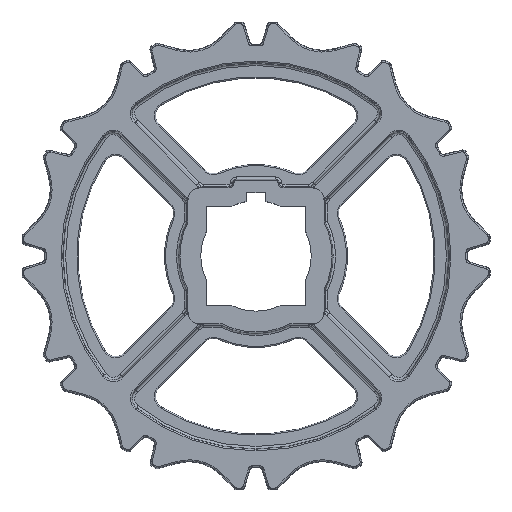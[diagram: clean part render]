
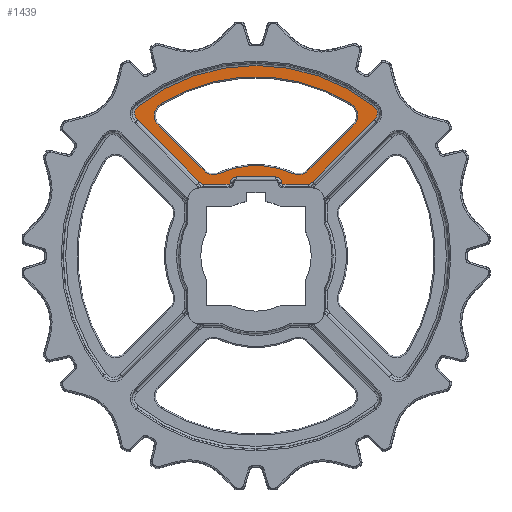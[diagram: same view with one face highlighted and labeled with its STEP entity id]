
A CAD part, top view. The second image highlights one B-rep face of the part: STEP entity #1439.
In plain terms, the highlighted planar face has unit normal (0, 0, 1).
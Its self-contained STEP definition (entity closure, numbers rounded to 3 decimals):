
#430=FACE_BOUND('',#3888,.T.);
#431=FACE_BOUND('',#3889,.T.);
#1047=PLANE('',#17221);
#1439=ADVANCED_FACE('',(#430,#431),#1047,.T.);
#3888=EDGE_LOOP('',(#8248,#8249,#8250,#8251,#8252,#8253,#8254,#8255));
#3889=EDGE_LOOP('',(#8256,#8257,#8258,#8259,#8260,#8261,#8262,#8263,#8264,
#8265,#8266,#8267,#8268,#8269,#8270,#8271));
#5300=LINE('',#26911,#6370);
#5301=LINE('',#26919,#6371);
#5302=LINE('',#26925,#6372);
#5303=LINE('',#26933,#6373);
#5304=LINE('',#26937,#6374);
#5305=LINE('',#26941,#6375);
#5306=LINE('',#26945,#6376);
#5307=LINE('',#26949,#6377);
#5308=LINE('',#26953,#6378);
#6370=VECTOR('',#20816,1.);
#6371=VECTOR('',#20823,1.);
#6372=VECTOR('',#20828,1.);
#6373=VECTOR('',#20835,1.);
#6374=VECTOR('',#20838,1.);
#6375=VECTOR('',#20841,1.);
#6376=VECTOR('',#20844,1.);
#6377=VECTOR('',#20847,1.);
#6378=VECTOR('',#20850,1.);
#8248=ORIENTED_EDGE('',*,*,#14172,.T.);
#8249=ORIENTED_EDGE('',*,*,#14173,.T.);
#8250=ORIENTED_EDGE('',*,*,#14174,.T.);
#8251=ORIENTED_EDGE('',*,*,#14175,.T.);
#8252=ORIENTED_EDGE('',*,*,#14176,.T.);
#8253=ORIENTED_EDGE('',*,*,#14177,.T.);
#8254=ORIENTED_EDGE('',*,*,#14178,.T.);
#8255=ORIENTED_EDGE('',*,*,#14179,.T.);
#8256=ORIENTED_EDGE('',*,*,#14180,.T.);
#8257=ORIENTED_EDGE('',*,*,#14181,.T.);
#8258=ORIENTED_EDGE('',*,*,#14182,.T.);
#8259=ORIENTED_EDGE('',*,*,#14183,.T.);
#8260=ORIENTED_EDGE('',*,*,#14184,.T.);
#8261=ORIENTED_EDGE('',*,*,#14185,.T.);
#8262=ORIENTED_EDGE('',*,*,#14186,.T.);
#8263=ORIENTED_EDGE('',*,*,#14187,.T.);
#8264=ORIENTED_EDGE('',*,*,#14188,.T.);
#8265=ORIENTED_EDGE('',*,*,#14189,.T.);
#8266=ORIENTED_EDGE('',*,*,#14190,.T.);
#8267=ORIENTED_EDGE('',*,*,#14191,.T.);
#8268=ORIENTED_EDGE('',*,*,#14192,.T.);
#8269=ORIENTED_EDGE('',*,*,#14193,.T.);
#8270=ORIENTED_EDGE('',*,*,#14194,.T.);
#8271=ORIENTED_EDGE('',*,*,#14195,.T.);
#12500=VERTEX_POINT('',#26907);
#12501=VERTEX_POINT('',#26908);
#12502=VERTEX_POINT('',#26910);
#12503=VERTEX_POINT('',#26912);
#12504=VERTEX_POINT('',#26914);
#12505=VERTEX_POINT('',#26916);
#12506=VERTEX_POINT('',#26918);
#12507=VERTEX_POINT('',#26920);
#12508=VERTEX_POINT('',#26923);
#12509=VERTEX_POINT('',#26924);
#12510=VERTEX_POINT('',#26926);
#12511=VERTEX_POINT('',#26928);
#12512=VERTEX_POINT('',#26930);
#12513=VERTEX_POINT('',#26932);
#12514=VERTEX_POINT('',#26934);
#12515=VERTEX_POINT('',#26936);
#12516=VERTEX_POINT('',#26938);
#12517=VERTEX_POINT('',#26940);
#12518=VERTEX_POINT('',#26942);
#12519=VERTEX_POINT('',#26944);
#12520=VERTEX_POINT('',#26946);
#12521=VERTEX_POINT('',#26948);
#12522=VERTEX_POINT('',#26950);
#12523=VERTEX_POINT('',#26952);
#14172=EDGE_CURVE('',#12500,#12501,#15736,.T.);
#14173=EDGE_CURVE('',#12501,#12502,#15737,.T.);
#14174=EDGE_CURVE('',#12502,#12503,#5300,.T.);
#14175=EDGE_CURVE('',#12503,#12504,#15738,.T.);
#14176=EDGE_CURVE('',#12504,#12505,#15739,.T.);
#14177=EDGE_CURVE('',#12505,#12506,#15740,.T.);
#14178=EDGE_CURVE('',#12506,#12507,#5301,.T.);
#14179=EDGE_CURVE('',#12507,#12500,#15741,.T.);
#14180=EDGE_CURVE('',#12508,#12509,#15742,.T.);
#14181=EDGE_CURVE('',#12509,#12510,#5302,.T.);
#14182=EDGE_CURVE('',#12510,#12511,#15743,.T.);
#14183=EDGE_CURVE('',#12511,#12512,#15744,.T.);
#14184=EDGE_CURVE('',#12512,#12513,#15745,.T.);
#14185=EDGE_CURVE('',#12513,#12514,#5303,.T.);
#14186=EDGE_CURVE('',#12514,#12515,#15746,.T.);
#14187=EDGE_CURVE('',#12515,#12516,#5304,.T.);
#14188=EDGE_CURVE('',#12516,#12517,#15747,.T.);
#14189=EDGE_CURVE('',#12517,#12518,#5305,.T.);
#14190=EDGE_CURVE('',#12518,#12519,#15748,.T.);
#14191=EDGE_CURVE('',#12519,#12520,#5306,.T.);
#14192=EDGE_CURVE('',#12520,#12521,#15749,.T.);
#14193=EDGE_CURVE('',#12521,#12522,#5307,.T.);
#14194=EDGE_CURVE('',#12522,#12523,#15750,.T.);
#14195=EDGE_CURVE('',#12523,#12508,#5308,.T.);
#15736=CIRCLE('',#17206,36.85);
#15737=CIRCLE('',#17207,5.5);
#15738=CIRCLE('',#17208,5.5);
#15739=CIRCLE('',#17209,73.15);
#15740=CIRCLE('',#17210,5.5);
#15741=CIRCLE('',#17211,5.5);
#15742=CIRCLE('',#17212,3.685);
#15743=CIRCLE('',#17213,3.685);
#15744=CIRCLE('',#17214,77.685);
#15745=CIRCLE('',#17215,3.685);
#15746=CIRCLE('',#17216,3.685);
#15747=CIRCLE('',#17217,0.563);
#15748=CIRCLE('',#17218,2.437);
#15749=CIRCLE('',#17219,2.437);
#15750=CIRCLE('',#17220,0.563);
#17206=AXIS2_PLACEMENT_3D('',#26906,#20812,#20813);
#17207=AXIS2_PLACEMENT_3D('',#26909,#20814,#20815);
#17208=AXIS2_PLACEMENT_3D('',#26913,#20817,#20818);
#17209=AXIS2_PLACEMENT_3D('',#26915,#20819,#20820);
#17210=AXIS2_PLACEMENT_3D('',#26917,#20821,#20822);
#17211=AXIS2_PLACEMENT_3D('',#26921,#20824,#20825);
#17212=AXIS2_PLACEMENT_3D('',#26922,#20826,#20827);
#17213=AXIS2_PLACEMENT_3D('',#26927,#20829,#20830);
#17214=AXIS2_PLACEMENT_3D('',#26929,#20831,#20832);
#17215=AXIS2_PLACEMENT_3D('',#26931,#20833,#20834);
#17216=AXIS2_PLACEMENT_3D('',#26935,#20836,#20837);
#17217=AXIS2_PLACEMENT_3D('',#26939,#20839,#20840);
#17218=AXIS2_PLACEMENT_3D('',#26943,#20842,#20843);
#17219=AXIS2_PLACEMENT_3D('',#26947,#20845,#20846);
#17220=AXIS2_PLACEMENT_3D('',#26951,#20848,#20849);
#17221=AXIS2_PLACEMENT_3D('',#26954,#20851,#20852);
#20812=DIRECTION('',(0.,0.,1.));
#20813=DIRECTION('',(1.,0.,0.));
#20814=DIRECTION('',(0.,0.,-1.));
#20815=DIRECTION('',(1.,0.,0.));
#20816=DIRECTION('',(-0.707,0.707,0.));
#20817=DIRECTION('',(0.,0.,-1.));
#20818=DIRECTION('',(1.,0.,0.));
#20819=DIRECTION('',(0.,0.,-1.));
#20820=DIRECTION('',(1.,0.,0.));
#20821=DIRECTION('',(0.,0.,-1.));
#20822=DIRECTION('',(1.,0.,0.));
#20823=DIRECTION('',(-0.707,-0.707,0.));
#20824=DIRECTION('',(0.,0.,-1.));
#20825=DIRECTION('',(1.,0.,0.));
#20826=DIRECTION('',(0.,0.,1.));
#20827=DIRECTION('',(1.,0.,0.));
#20828=DIRECTION('',(0.707,0.707,0.));
#20829=DIRECTION('',(0.,0.,1.));
#20830=DIRECTION('',(1.,0.,0.));
#20831=DIRECTION('',(0.,0.,1.));
#20832=DIRECTION('',(1.,0.,0.));
#20833=DIRECTION('',(0.,0.,1.));
#20834=DIRECTION('',(1.,0.,0.));
#20835=DIRECTION('',(0.707,-0.707,0.));
#20836=DIRECTION('',(0.,0.,1.));
#20837=DIRECTION('',(1.,0.,0.));
#20838=DIRECTION('',(1.,0.,0.));
#20839=DIRECTION('',(0.,0.,1.));
#20840=DIRECTION('',(1.,0.,0.));
#20841=DIRECTION('',(0.,1.,0.));
#20842=DIRECTION('',(0.,0.,-1.));
#20843=DIRECTION('',(1.,0.,0.));
#20844=DIRECTION('',(1.,0.,0.));
#20845=DIRECTION('',(0.,0.,-1.));
#20846=DIRECTION('',(1.,0.,0.));
#20847=DIRECTION('',(0.,-1.,0.));
#20848=DIRECTION('',(0.,0.,1.));
#20849=DIRECTION('',(1.,0.,0.));
#20850=DIRECTION('',(1.,0.,0.));
#20851=DIRECTION('',(0.,0.,1.));
#20852=DIRECTION('',(0.,1.,0.));
#26906=CARTESIAN_POINT('',(3914.869,1257.482,5.));
#26907=CARTESIAN_POINT('',(3929.923,1291.117,5.));
#26908=CARTESIAN_POINT('',(3899.815,1291.117,5.));
#26909=CARTESIAN_POINT('',(3897.569,1296.137,5.));
#26910=CARTESIAN_POINT('',(3893.679,1292.248,5.));
#26911=CARTESIAN_POINT('',(3921.657,1264.27,5.));
#26912=CARTESIAN_POINT('',(3875.028,1310.899,5.));
#26913=CARTESIAN_POINT('',(3878.917,1314.788,5.));
#26914=CARTESIAN_POINT('',(3875.994,1319.447,5.));
#26915=CARTESIAN_POINT('',(3914.869,1257.482,5.));
#26916=CARTESIAN_POINT('',(3953.743,1319.447,5.));
#26917=CARTESIAN_POINT('',(3950.821,1314.788,5.));
#26918=CARTESIAN_POINT('',(3954.71,1310.899,5.));
#26919=CARTESIAN_POINT('',(3908.081,1264.27,5.));
#26920=CARTESIAN_POINT('',(3936.059,1292.248,5.));
#26921=CARTESIAN_POINT('',(3932.169,1296.137,5.));
#26922=CARTESIAN_POINT('',(3935.245,1290.232,5.));
#26923=CARTESIAN_POINT('',(3936.186,1286.669,5.));
#26924=CARTESIAN_POINT('',(3937.85,1287.626,5.));
#26925=CARTESIAN_POINT('',(3911.288,1261.063,5.));
#26926=CARTESIAN_POINT('',(3963.246,1313.022,5.));
#26927=CARTESIAN_POINT('',(3960.641,1315.628,5.));
#26928=CARTESIAN_POINT('',(3962.92,1318.524,5.));
#26929=CARTESIAN_POINT('',(3914.869,1257.482,5.));
#26930=CARTESIAN_POINT('',(3866.818,1318.524,5.));
#26931=CARTESIAN_POINT('',(3869.097,1315.628,5.));
#26932=CARTESIAN_POINT('',(3866.492,1313.022,5.));
#26933=CARTESIAN_POINT('',(3918.45,1261.063,5.));
#26934=CARTESIAN_POINT('',(3891.888,1287.626,5.));
#26935=CARTESIAN_POINT('',(3894.493,1290.232,5.));
#26936=CARTESIAN_POINT('',(3893.552,1286.669,5.));
#26937=CARTESIAN_POINT('',(3914.869,1286.669,5.));
#26938=CARTESIAN_POINT('',(3903.869,1286.669,5.));
#26939=CARTESIAN_POINT('',(3903.869,1287.232,5.));
#26940=CARTESIAN_POINT('',(3904.432,1287.232,5.));
#26941=CARTESIAN_POINT('',(3904.432,1257.482,5.));
#26942=CARTESIAN_POINT('',(3904.432,1287.282,5.));
#26943=CARTESIAN_POINT('',(3906.869,1287.282,5.));
#26944=CARTESIAN_POINT('',(3906.869,1289.719,5.));
#26945=CARTESIAN_POINT('',(3914.869,1289.719,5.));
#26946=CARTESIAN_POINT('',(3922.869,1289.719,5.));
#26947=CARTESIAN_POINT('',(3922.869,1287.282,5.));
#26948=CARTESIAN_POINT('',(3925.306,1287.282,5.));
#26949=CARTESIAN_POINT('',(3925.306,1257.482,5.));
#26950=CARTESIAN_POINT('',(3925.306,1287.232,5.));
#26951=CARTESIAN_POINT('',(3925.869,1287.232,5.));
#26952=CARTESIAN_POINT('',(3925.869,1286.669,5.));
#26953=CARTESIAN_POINT('',(3914.869,1286.669,5.));
#26954=CARTESIAN_POINT('',(3914.869,1257.482,5.));
